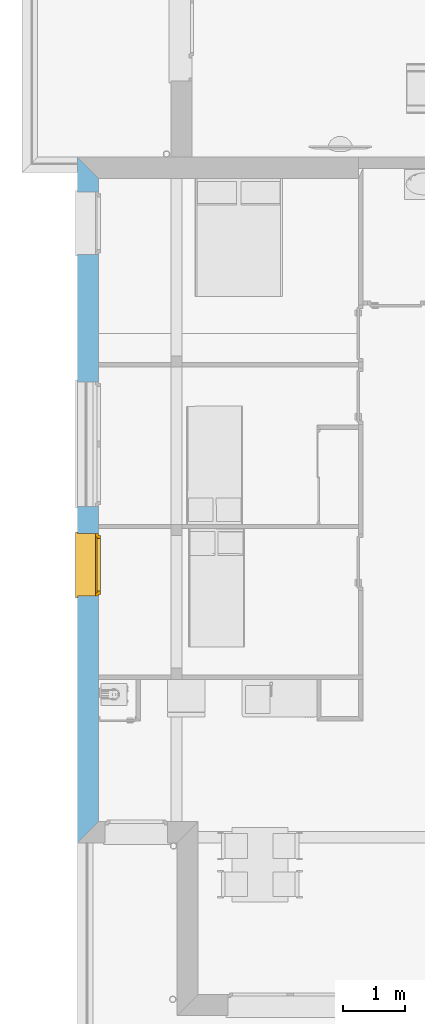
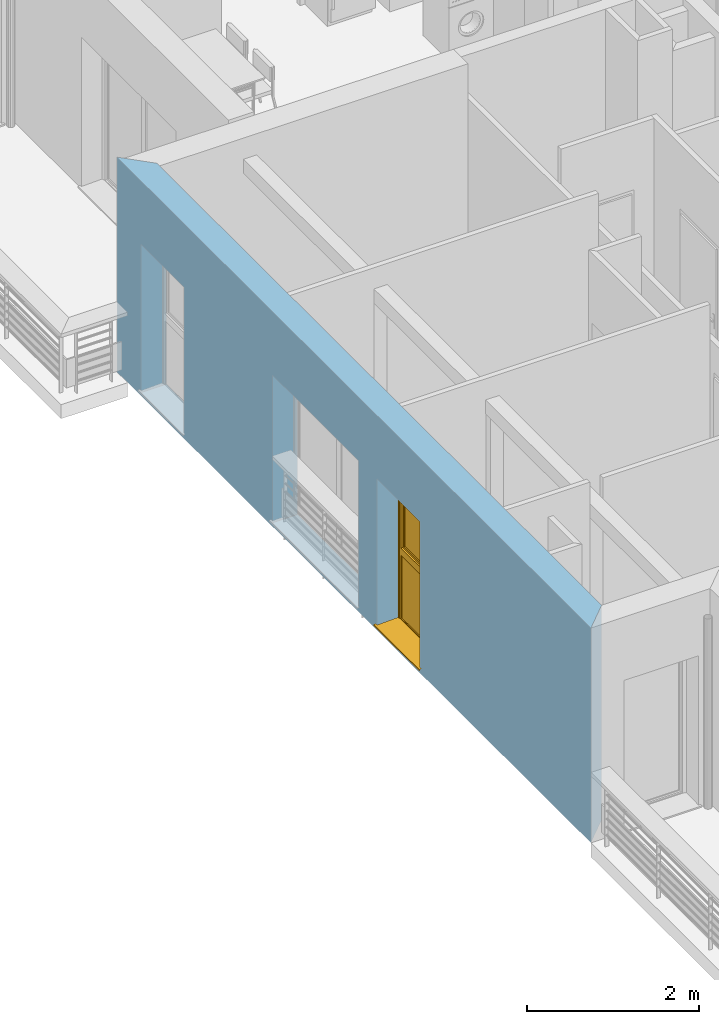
# One storey, part 10 of 165: 1 window, 3 openings, plus 1 element that does not belong to this part.
"""IFC2X3 building model written with IfcOpenShell, lengths in millimetres."""

from ifc_helpers import new_model, entity, si_unit, converted_unit, derived_unit, money_unit, direction, frame, origin_with_axes, place, context, subcontext, project, spatial, polyline, outline, extrude, open_shell, faceted_brep, surface_model, source, transform, mapped, material, layer, layer_set, layer_usage, type_object, element, fill, save


model = new_model("IFC2X3")

# Units and contexts
model_context = context("Model", 3, precision=0.01, world=origin_with_axes(), true_north=direction((0.0, 1.0)))
body_context = subcontext(model_context, "Body", "Model", "MODEL_VIEW")
ifc_project = project(units=[si_unit("LENGTHUNIT", "METRE", prefix="MILLI"), si_unit("AREAUNIT", "SQUARE_METRE"), si_unit("VOLUMEUNIT", "CUBIC_METRE"), converted_unit("PLANEANGLEUNIT", "DEGREE", entity("IfcPlaneAngleMeasure", 0.0174532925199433), si_unit("PLANEANGLEUNIT", "RADIAN"), dimensions=[0, 0, 0, 0, 0, 0, 0]), money_unit("USD"), converted_unit("TIMEUNIT", "Year", entity("IfcTimeMeasure", 31557600.0), si_unit("TIMEUNIT", "SECOND"), dimensions=[0, 0, 1, 0, 0, 0, 0]), si_unit("MASSUNIT", "GRAM", prefix="KILO"), si_unit("THERMODYNAMICTEMPERATUREUNIT", "DEGREE_CELSIUS"), si_unit("LUMINOUSINTENSITYUNIT", "LUMEN"), si_unit("ENERGYUNIT", "JOULE", prefix="MEGA"), derived_unit("THERMALCONDUCTANCEUNIT", [(si_unit("POWERUNIT", "WATT"), 1), (si_unit("LENGTHUNIT", "METRE"), -1), (si_unit("THERMODYNAMICTEMPERATUREUNIT", "KELVIN"), -1)]), derived_unit("SPECIFICHEATCAPACITYUNIT", [(si_unit("ENERGYUNIT", "JOULE"), 1), (si_unit("MASSUNIT", "GRAM", prefix="KILO"), -1), (si_unit("THERMODYNAMICTEMPERATUREUNIT", "KELVIN"), -1)]), derived_unit("MASSDENSITYUNIT", [(si_unit("MASSUNIT", "GRAM", prefix="KILO"), 1), (si_unit("VOLUMEUNIT", "CUBIC_METRE"), -1)])], contexts=[model_context])

# Site, building, storey
site_placement = place(None, origin_with_axes())
site = spatial("IfcSite", under=ifc_project, at=site_placement, Name="Site", CompositionType="ELEMENT")
building_placement = place(site_placement, origin_with_axes())
building = spatial("IfcBuilding", under=site, at=building_placement, Name="Bâtiment", CompositionType="ELEMENT")
storey_placement = place(building_placement, frame((0.0, 0.0, 8500.0), z_axis=(0.0, 0.0, 1.0), x_axis=(1.0, 0.0, 0.0)))
storey = spatial("IfcBuildingStorey", under=building, at=storey_placement, Name="Etage 2", CompositionType="ELEMENT", Elevation=8500.0)

# Wall, openings, window
ifc_material_1 = material(Name="Parpaing 312445824")
ifc_layer_1 = layer(ifc_material_1, 180.0, ventilated="UNKNOWN")
ifc_material_2 = material(Name="Isolant styromousse 301821074")
ifc_layer_2 = layer(ifc_material_2, 160.0, ventilated="UNKNOWN")
ifc_layer_set = layer_set([ifc_layer_1, ifc_layer_2], Name="isol int 18+16 0018356637")
ifc_layer_usage = layer_usage(ifc_layer_set, "AXIS2", "POSITIVE", 0.0)
wall_type = type_object("IfcWallType", Name="isol int 18+16 0018356637 340", PredefinedType="NOTDEFINED")
wall_placement = place(storey_placement, frame((2216634.23334483, -644016.3765232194, 0.0), z_axis=(0.0, 0.0, 1.0), x_axis=(-5.736987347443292e-10, -1.0, 0.0)))
wall = element("IfcWallStandardCase", 1, at=wall_placement, inside=storey, type_object=wall_type, material=ifc_layer_usage, Name="Mur-143", context=body_context, shape_type="SweptSolid", body=[
    extrude(outline(polyline([(0.0, 0.0), (11025.09125507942, 0.0), (10685.09125488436, 340.0000000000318), (339.9999955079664, 340.0000000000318), (0.0, 0.0)])), origin_with_axes(), (0.0, 0.0, 1.0), 3050.0),
])
opening_1_placement = place(wall_placement, frame((4613.39090611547, 0.0, 50.00000000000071), z_axis=(0.0, 0.0, 1.0), x_axis=(1.0, 0.0, 0.0)))
element("IfcOpeningElement", 2, at=opening_1_placement, cuts=wall, Name="Fen-207", context=body_context, shape_type="Brep", body=[
    faceted_brep([(-1000.000000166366, 290.0000020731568, 2100.0), (-1000.000000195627, 341.0000020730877, 2100.0), (-1000.000000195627, 341.0000020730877, 0.0), (-1000.000000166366, 290.0000020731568, 0.0), (-1000.000000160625, 280.0000020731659, 2100.0), (-1000.000000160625, 280.0000020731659, 2350.0), (-1000.000000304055, 530.0000020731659, 2350.0), (-1000.000000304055, 530.0000020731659, 2100.0), (999.9999998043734, 341.0000032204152, 2100.0), (999.9999998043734, 341.0000032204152, 0.0), (999.9999998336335, 290.0000032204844, 0.0), (1000.000000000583, -1.000003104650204, 0.0), (-999.9999999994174, -1.000004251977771, 0.0), (-999.9999999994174, -1.000004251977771, 2100.0), (999.9999998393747, 280.0000032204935, 2100.0), (999.9999998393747, 280.0000032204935, 2350.0), (999.9999996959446, 530.0000032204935, 2350.0), (999.9999996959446, 530.0000032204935, 2100.0), (999.9999998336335, 290.0000032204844, 2100.0), (1000.000000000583, -1.000003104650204, 2100.0)], [[[0, 1, 2, 3]], [[1, 0, 4, 5, 6, 7]], [[1, 8, 9, 2]], [[10, 11, 12, 3, 2, 9]], [[4, 0, 3, 12, 13]], [[4, 14, 15, 5]], [[6, 5, 15, 16]], [[7, 6, 16, 17]], [[8, 1, 7, 17]], [[8, 18, 10, 9]], [[18, 14, 19, 11, 10]], [[13, 12, 11, 19]], [[14, 4, 13, 19]], [[18, 8, 17, 16, 15, 14]]]),
])
opening_2_placement = place(wall_placement, frame((6554.331148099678, 0.0, 50.00000000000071), z_axis=(0.0, 0.0, 1.0), x_axis=(1.0, 0.0, 0.0)))
opening_2 = element("IfcOpeningElement", 3, at=opening_2_placement, cuts=wall, Name="Fen-133", context=body_context, shape_type="Brep", body=[
    faceted_brep([(-500.0000001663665, 290.0000034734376, 2100.0), (-500.0000001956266, 341.0000034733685, 2100.0), (-500.0000001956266, 341.0000034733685, 0.0), (-500.0000001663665, 290.0000034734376, 0.0), (-500.0000001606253, 280.0000034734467, 2100.0), (-500.0000001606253, 280.0000034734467, 2350.0), (-500.0000003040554, 530.0000034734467, 2350.0), (-500.0000003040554, 530.0000034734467, 2100.0), (499.9999998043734, 341.0000040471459, 2100.0), (499.9999998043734, 341.0000040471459, 0.0), (499.9999998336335, 290.000004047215, 0.0), (500.0000000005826, -1.000002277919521, 0.0), (-499.9999999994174, -1.000002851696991, 0.0), (-499.9999999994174, -1.000002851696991, 2100.0), (499.9999998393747, 280.0000040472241, 2100.0), (499.9999998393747, 280.0000040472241, 2350.0), (499.9999996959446, 530.0000040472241, 2350.0), (499.9999996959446, 530.0000040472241, 2100.0), (499.9999998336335, 290.000004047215, 2100.0), (500.0000000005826, -1.000002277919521, 2100.0)], [[[0, 1, 2, 3]], [[1, 0, 4, 5, 6, 7]], [[1, 8, 9, 2]], [[10, 11, 12, 3, 2, 9]], [[4, 0, 3, 12, 13]], [[4, 14, 15, 5]], [[6, 5, 15, 16]], [[7, 6, 16, 17]], [[8, 1, 7, 17]], [[8, 18, 10, 9]], [[18, 14, 19, 11, 10]], [[13, 12, 11, 19]], [[14, 4, 13, 19]], [[18, 8, 17, 16, 15, 14]]]),
])
opening_3_placement = place(wall_placement, frame((1062.585342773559, 0.0, 50.00000000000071), z_axis=(0.0, 0.0, 1.0), x_axis=(1.0, 0.0, 0.0)))
element("IfcOpeningElement", 4, at=opening_3_placement, cuts=wall, Name="Fen-133", context=body_context, shape_type="Brep", body=[
    faceted_brep([(-500.0000001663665, 290.0000003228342, 2100.0), (-500.0000001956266, 341.0000003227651, 2100.0), (-500.0000001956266, 341.0000003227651, 0.0), (-500.0000001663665, 290.0000003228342, 0.0), (-500.0000001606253, 280.0000003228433, 2100.0), (-500.0000001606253, 280.0000003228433, 2350.0), (-500.0000003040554, 530.0000003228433, 2350.0), (-500.0000003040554, 530.0000003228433, 2100.0), (499.9999998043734, 341.0000008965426, 2100.0), (499.9999998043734, 341.0000008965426, 0.0), (499.9999998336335, 290.0000008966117, 0.0), (500.0000000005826, -1.000005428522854, 0.0), (-499.9999999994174, -1.000006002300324, 0.0), (-499.9999999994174, -1.000006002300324, 2100.0), (499.9999998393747, 280.0000008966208, 2100.0), (499.9999998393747, 280.0000008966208, 2350.0), (499.9999996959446, 530.0000008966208, 2350.0), (499.9999996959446, 530.0000008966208, 2100.0), (499.9999998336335, 290.0000008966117, 2100.0), (500.0000000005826, -1.000005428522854, 2100.0)], [[[0, 1, 2, 3]], [[1, 0, 4, 5, 6, 7]], [[1, 8, 9, 2]], [[10, 11, 12, 3, 2, 9]], [[4, 0, 3, 12, 13]], [[4, 14, 15, 5]], [[15, 16, 6, 5]], [[16, 17, 7, 6]], [[8, 1, 7, 17]], [[8, 18, 10, 9]], [[18, 14, 19, 11, 10]], [[13, 12, 11, 19]], [[14, 4, 13, 19]], [[18, 8, 17, 16, 15, 14]]]),
])
window_style = type_object("IfcWindowStyle", Name="Fenêtre 27", ConstructionType="NOTDEFINED", OperationType="DOUBLE_PANEL_HORIZONTAL", ParameterTakesPrecedence=False, Sizeable=False)
shared_shape = source(origin_with_axes(), body_context, "Body", "SurfaceModel", [
    surface_model("IfcShellBasedSurfaceModel", [(-500.0, -51.00000000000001, 40.00000000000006), (500.0, -51.00000000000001, 40.0), (500.0, -51.00000000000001, 50.0), (-500.0, -51.00000000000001, 50.00000000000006), (-530.0, -369.9999999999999, 28.96551724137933), (530.0, -369.9999999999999, 28.96551724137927), (530.0, -339.9999999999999, 30.00324289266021), (500.0, -339.9999999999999, 30.00324289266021), (-500.0, -339.9999999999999, 30.00324289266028), (-530.0, -339.9999999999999, 30.00324289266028), (-530.0, -369.9999999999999, 8.96551724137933), (530.0, -369.9999999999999, 8.965517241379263), (-530.0, -359.9999999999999, 18.96551724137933), (530.0, -359.9999999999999, 18.96551724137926)], [open_shell([[[0, 1, 2, 3]], [[4, 5, 6, 7, 1, 0, 8, 9]], [[10, 11, 5, 4]], [[12, 13, 11, 10]]])]),
    faceted_brep([(500.0, -59.99999999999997, 2350.0), (500.0, 190.0, 2350.0), (497.0, 190.0, 2350.0), (497.0, -59.99999999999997, 2350.0), (500.0, -59.99999999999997, 2100.0), (500.0, 190.0, 2100.0), (497.0, 190.0, 2100.0), (497.0, -59.99999999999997, 2100.0)], [[[0, 1, 2, 3]], [[0, 4, 5, 1]], [[1, 5, 6, 2]], [[3, 2, 6, 7]], [[4, 0, 3, 7]], [[5, 4, 7, 6]]]),
    faceted_brep([(-497.0, -59.99999999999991, 2350.0), (-497.0, 190.0000000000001, 2350.0), (-500.0, 190.0000000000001, 2350.0), (-500.0, -59.99999999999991, 2350.0), (-497.0, -59.99999999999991, 2100.0), (-497.0, 190.0000000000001, 2100.0), (-500.0, 190.0000000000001, 2100.0), (-500.0, -59.99999999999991, 2100.0)], [[[0, 1, 2, 3]], [[0, 4, 5, 1]], [[1, 5, 6, 2]], [[3, 2, 6, 7]], [[4, 0, 3, 7]], [[5, 4, 7, 6]]]),
    faceted_brep([(497.0, -60.0, 2100.0), (497.0, -60.0, 2350.0), (-497.0, -59.99999999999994, 2350.0), (-497.0, -59.99999999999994, 2100.0), (497.0, -56.99999999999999, 2100.0), (497.0, -56.99999999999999, 2347.0), (497.0, 187.0, 2347.0), (497.0, 187.0, 2103.0), (497.0, -37.99999999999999, 2103.0), (497.0, -37.99999999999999, 2100.0), (497.0, 190.0, 2100.0), (497.0, 190.0, 2350.0), (-497.0, 190.0000000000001, 2350.0), (-497.0, 190.0000000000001, 2100.0), (-497.0, -37.99999999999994, 2100.0), (-497.0, -37.99999999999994, 2103.0), (-497.0, 187.0000000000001, 2103.0), (-497.0, 187.0000000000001, 2347.0), (-497.0, -56.99999999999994, 2347.0), (-497.0, -56.99999999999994, 2100.0)], [[[0, 1, 2, 3]], [[0, 4, 5, 6, 7, 8, 9, 10, 11, 1]], [[1, 11, 12, 2]], [[3, 2, 12, 13, 14, 15, 16, 17, 18, 19]], [[4, 0, 3, 19]], [[5, 4, 19, 18]], [[6, 5, 18, 17]], [[7, 6, 17, 16]], [[8, 7, 16, 15]], [[9, 8, 15, 14]], [[10, 9, 14, 13]], [[11, 10, 13, 12]]]),
    faceted_brep([(494.0, -40.37442957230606, 2206.419644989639), (494.0, -35.54711042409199, 2188.403844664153), (494.0, -27.66471820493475, 2171.5), (494.0, -16.9667554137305, 2156.22172576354), (494.0, -3.778274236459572, 2143.03324458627), (494.0, 11.50000000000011, 2132.335281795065), (494.0, 28.40384466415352, 2124.452889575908), (494.0, 46.4196449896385, 2119.625570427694), (494.0, 65.00000000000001, 2118.0), (494.0, 83.58035501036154, 2119.625570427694), (494.0, 101.5961553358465, 2124.452889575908), (494.0, 118.4999999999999, 2132.335281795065), (494.0, 133.7782742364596, 2143.03324458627), (494.0, 146.9667554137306, 2156.22172576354), (494.0, 157.6647182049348, 2171.5), (494.0, 165.5471104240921, 2188.403844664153), (494.0, 170.3744295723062, 2206.419644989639), (494.0, 171.9999999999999, 2225.0), (494.0, 170.3744295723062, 2243.580355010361), (494.0, 165.5471104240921, 2261.596155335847), (494.0, 157.6647182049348, 2278.5), (494.0, 146.9667554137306, 2293.77827423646), (494.0, 133.7782742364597, 2306.966755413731), (494.0, 118.5, 2317.664718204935), (494.0, 101.5961553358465, 2325.547110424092), (494.0, 83.58035501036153, 2330.374429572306), (494.0, 64.99999999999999, 2332.0), (494.0, 46.41964498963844, 2330.374429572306), (494.0, 28.40384466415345, 2325.547110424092), (494.0, 11.5, 2317.664718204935), (494.0, -3.778274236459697, 2306.966755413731), (494.0, -16.96675541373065, 2293.77827423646), (494.0, -27.66471820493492, 2278.5), (494.0, -35.54711042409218, 2261.596155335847), (494.0, -40.37442957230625, 2243.580355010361), (494.0, -41.99999999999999, 2225.0), (-494.0, -40.374429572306, 2206.419644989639), (-494.0, -35.54711042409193, 2188.403844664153), (-494.0, -27.6647182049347, 2171.5), (-494.0, -16.96675541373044, 2156.22172576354), (-494.0, -3.778274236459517, 2143.03324458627), (-494.0, 11.50000000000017, 2132.335281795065), (-494.0, 28.40384466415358, 2124.452889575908), (-494.0, 46.41964498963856, 2119.625570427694), (-494.0, 65.00000000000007, 2118.0), (-494.0, 83.5803550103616, 2119.625570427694), (-494.0, 101.5961553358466, 2124.452889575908), (-494.0, 118.5, 2132.335281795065), (-494.0, 133.7782742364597, 2143.03324458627), (-494.0, 146.9667554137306, 2156.22172576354), (-494.0, 157.6647182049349, 2171.5), (-494.0, 165.5471104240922, 2188.403844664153), (-494.0, 170.3744295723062, 2206.419644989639), (-494.0, 172.0, 2225.0), (-494.0, 170.3744295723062, 2243.580355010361), (-494.0, 165.5471104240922, 2261.596155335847), (-494.0, 157.6647182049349, 2278.5), (-494.0, 146.9667554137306, 2293.77827423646), (-494.0, 133.7782742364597, 2306.966755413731), (-494.0, 118.5, 2317.664718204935), (-494.0, 101.5961553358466, 2325.547110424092), (-494.0, 83.58035501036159, 2330.374429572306), (-494.0, 65.00000000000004, 2332.0), (-494.0, 46.41964498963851, 2330.374429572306), (-494.0, 28.40384466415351, 2325.547110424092), (-494.0, 11.50000000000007, 2317.664718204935), (-494.0, -3.778274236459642, 2306.966755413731), (-494.0, -16.96675541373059, 2293.77827423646), (-494.0, -27.66471820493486, 2278.5), (-494.0, -35.54711042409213, 2261.596155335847), (-494.0, -40.37442957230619, 2243.580355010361), (-494.0, -41.99999999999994, 2225.0)], [[[0, 1, 2, 3, 4, 5, 6, 7, 8, 9, 10, 11, 12, 13, 14, 15, 16, 17, 18, 19, 20, 21, 22, 23, 24, 25, 26, 27, 28, 29, 30, 31, 32, 33, 34, 35]], [[1, 0, 36, 37]], [[2, 1, 37, 38]], [[3, 2, 38, 39]], [[4, 3, 39, 40]], [[5, 4, 40, 41]], [[6, 5, 41, 42]], [[7, 6, 42, 43]], [[8, 7, 43, 44]], [[9, 8, 44, 45]], [[10, 9, 45, 46]], [[11, 10, 46, 47]], [[12, 11, 47, 48]], [[13, 12, 48, 49]], [[14, 13, 49, 50]], [[15, 14, 50, 51]], [[16, 15, 51, 52]], [[17, 16, 52, 53]], [[18, 17, 53, 54]], [[19, 18, 54, 55]], [[20, 19, 55, 56]], [[21, 20, 56, 57]], [[22, 21, 57, 58]], [[23, 22, 58, 59]], [[24, 23, 59, 60]], [[25, 24, 60, 61]], [[26, 25, 61, 62]], [[27, 26, 62, 63]], [[28, 27, 63, 64]], [[29, 28, 64, 65]], [[30, 29, 65, 66]], [[31, 30, 66, 67]], [[32, 31, 67, 68]], [[33, 32, 68, 69]], [[34, 33, 69, 70]], [[35, 34, 70, 71]], [[0, 35, 71, 36]], [[36, 71, 70, 69, 68, 67, 66, 65, 64, 63, 62, 61, 60, 59, 58, 57, 56, 55, 54, 53, 52, 51, 50, 49, 48, 47, 46, 45, 44, 43, 42, 41, 40, 39, 38, 37]]]),
    faceted_brep([(-500.0, -34.99999999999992, 30.0), (-500.0, -59.99999999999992, 30.0), (-500.0, -59.99999999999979, 2100.0), (-500.0, -34.99999999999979, 2100.0), (-475.0, -34.99999999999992, 30.0), (-475.0, -37.99999999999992, 30.0), (-497.0, -37.99999999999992, 30.0), (-497.0, -56.99999999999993, 30.0), (-475.0, -56.99999999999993, 30.0), (-475.0, -59.99999999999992, 30.0), (-475.0, -59.99999999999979, 2100.0), (-475.0, -56.99999999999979, 2100.0), (-497.0, -56.99999999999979, 2100.0), (-497.0, -37.99999999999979, 2100.0), (-475.0, -37.99999999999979, 2100.0), (-475.0, -34.99999999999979, 2100.0)], [[[0, 1, 2, 3]], [[0, 4, 5, 6, 7, 8, 9, 1]], [[1, 9, 10, 2]], [[3, 2, 10, 11, 12, 13, 14, 15]], [[4, 0, 3, 15]], [[5, 4, 15, 14]], [[6, 5, 14, 13]], [[7, 6, 13, 12]], [[8, 7, 12, 11]], [[9, 8, 11, 10]]]),
    faceted_brep([(500.0, -34.99999999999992, 30.0), (500.0, -34.99999999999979, 2100.0), (500.0, -59.99999999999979, 2100.0), (500.0, -59.99999999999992, 30.0), (475.0, -34.99999999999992, 30.0), (475.0, -34.99999999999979, 2100.0), (475.0, -37.99999999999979, 2100.0), (497.0, -37.99999999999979, 2100.0), (497.0, -56.99999999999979, 2100.0), (475.0, -56.99999999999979, 2100.0), (475.0, -59.99999999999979, 2100.0), (475.0, -59.99999999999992, 30.0), (475.0, -56.99999999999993, 30.0), (497.0, -56.99999999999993, 30.0), (497.0, -37.99999999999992, 30.0), (475.0, -37.99999999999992, 30.0)], [[[0, 1, 2, 3]], [[4, 5, 1, 0]], [[1, 5, 6, 7, 8, 9, 10, 2]], [[3, 2, 10, 11]], [[0, 3, 11, 12, 13, 14, 15, 4]], [[15, 6, 5, 4]], [[14, 7, 6, 15]], [[13, 8, 7, 14]], [[12, 9, 8, 13]], [[11, 10, 9, 12]]]),
    faceted_brep([(-497.0, -46.66666666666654, 2225.0), (497.0, -46.6666666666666, 2225.0), (497.0, -46.6666666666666, 2216.666666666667), (-497.0, -46.66666666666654, 2216.666666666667), (-497.0, -51.66666666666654, 2225.0), (497.0, -51.6666666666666, 2225.0), (497.0, -51.6666666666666, 2216.666666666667), (497.0, -49.99999999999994, 2200.0), (497.0, -44.99999999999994, 2200.0), (-497.0, -44.99999999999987, 2200.0), (-497.0, -49.99999999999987, 2200.0), (-497.0, -51.66666666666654, 2216.666666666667)], [[[0, 1, 2, 3]], [[1, 0, 4, 5]], [[1, 5, 6, 7, 8, 2]], [[2, 8, 9, 3]], [[4, 0, 3, 9, 10, 11]], [[6, 5, 4, 11]], [[7, 6, 11, 10]], [[8, 7, 10, 9]]]),
    faceted_brep([(497.0, -44.99999999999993, 2200.0), (497.0, -46.6666666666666, 2183.333333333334), (-497.0, -46.66666666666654, 2183.333333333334), (-497.0, -44.99999999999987, 2200.0), (497.0, -49.99999999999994, 2200.0), (497.0, -51.6666666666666, 2183.333333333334), (497.0, -51.6666666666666, 2166.666666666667), (497.0, -49.99999999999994, 2150.000000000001), (497.0, -44.99999999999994, 2150.000000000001), (497.0, -46.6666666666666, 2166.666666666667), (-497.0, -46.66666666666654, 2166.666666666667), (-497.0, -44.99999999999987, 2150.000000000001), (-497.0, -49.99999999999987, 2150.000000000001), (-497.0, -51.66666666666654, 2166.666666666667), (-497.0, -51.66666666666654, 2183.333333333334), (-497.0, -49.99999999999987, 2200.0)], [[[0, 1, 2, 3]], [[0, 4, 5, 6, 7, 8, 9, 1]], [[1, 9, 10, 2]], [[3, 2, 10, 11, 12, 13, 14, 15]], [[4, 0, 3, 15]], [[5, 4, 15, 14]], [[6, 5, 14, 13]], [[7, 6, 13, 12]], [[8, 7, 12, 11]], [[9, 8, 11, 10]]]),
    faceted_brep([(497.0, -44.99999999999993, 2150.000000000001), (497.0, -46.6666666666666, 2133.333333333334), (-497.0, -46.66666666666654, 2133.333333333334), (-497.0, -44.99999999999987, 2150.000000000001), (497.0, -49.99999999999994, 2150.000000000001), (497.0, -51.6666666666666, 2133.333333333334), (497.0, -51.6666666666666, 2116.666666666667), (497.0, -49.99999999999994, 2100.000000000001), (497.0, -44.99999999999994, 2100.000000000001), (497.0, -46.6666666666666, 2116.666666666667), (-497.0, -46.66666666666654, 2116.666666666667), (-497.0, -44.99999999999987, 2100.000000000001), (-497.0, -49.99999999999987, 2100.000000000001), (-497.0, -51.66666666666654, 2116.666666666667), (-497.0, -51.66666666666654, 2133.333333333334), (-497.0, -49.99999999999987, 2150.000000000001)], [[[0, 1, 2, 3]], [[0, 4, 5, 6, 7, 8, 9, 1]], [[1, 9, 10, 2]], [[3, 2, 10, 11, 12, 13, 14, 15]], [[4, 0, 3, 15]], [[5, 4, 15, 14]], [[6, 5, 14, 13]], [[7, 6, 13, 12]], [[8, 7, 12, 11]], [[9, 8, 11, 10]]]),
    faceted_brep([(475.0000000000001, 0.0, 2050.0), (475.0000000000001, -25.00000000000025, 2050.0), (450.0, -25.00000000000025, 2050.0), (450.0, -50.00000000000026, 2050.0), (500.0, -50.00000000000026, 2050.0), (500.0, 0.0, 2050.0), (475.0000000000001, 0.0, 1025.0), (475.0000000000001, -25.00000000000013, 1025.0), (450.0, -25.00000000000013, 1050.0), (450.0, -25.00000000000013, 1025.0), (450.0, -50.00000000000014, 1050.0), (450.0, -50.00000000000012, 950.0), (450.0, -50.00000000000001, 50.00000000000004), (500.0, -50.00000000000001, 50.00000000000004), (500.0, 0.0, 50.00000000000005), (450.0, 0.0, 50.00000000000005), (450.0, 0.0, 950.0), (450.0, 0.0, 1025.0)], [[[0, 1, 2, 3, 4, 5]], [[1, 0, 6, 7]], [[8, 2, 1, 7, 9]], [[2, 8, 10, 3]], [[10, 11, 12, 13, 4, 3]], [[5, 4, 13, 14]], [[6, 0, 5, 14, 15, 16, 17]], [[6, 17, 9, 7]], [[9, 17, 16, 11, 10, 8]], [[15, 12, 11, 16]], [[14, 13, 12, 15]]]),
    faceted_brep([(-450.0, -25.00000000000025, 2050.0), (-475.0000000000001, -25.00000000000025, 2050.0), (-475.0000000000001, 0.0, 2050.0), (-500.0, 0.0, 2050.0), (-500.0, -50.00000000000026, 2050.0), (-450.0, -50.00000000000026, 2050.0), (-450.0, -25.00000000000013, 1050.0), (-450.0, -25.00000000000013, 1025.0), (-475.0000000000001, -25.00000000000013, 1025.0), (-475.0000000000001, 0.0, 1025.0), (-450.0, 0.0, 1025.0), (-450.0, 0.0, 950.0), (-450.0, 0.0, 50.00000000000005), (-500.0, 0.0, 50.00000000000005), (-500.0, -50.00000000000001, 50.00000000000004), (-450.0, -50.00000000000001, 50.00000000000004), (-450.0, -50.00000000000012, 950.0), (-450.0, -50.00000000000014, 1050.0)], [[[0, 1, 2, 3, 4, 5]], [[1, 0, 6, 7, 8]], [[9, 2, 1, 8]], [[9, 10, 11, 12, 13, 3, 2]], [[13, 14, 4, 3]], [[14, 15, 16, 17, 5, 4]], [[6, 0, 5, 17]], [[7, 6, 17, 16, 11, 10]], [[10, 9, 8, 7]], [[11, 16, 15, 12]], [[12, 15, 14, 13]]]),
    faceted_brep([(450.0, -25.00000000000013, 1050.0), (-450.0, -25.00000000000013, 1050.0), (-450.0, -50.00000000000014, 1050.0), (450.0, -50.00000000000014, 1050.0), (-450.0, -25.00000000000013, 1025.0), (450.0, -25.00000000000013, 1025.0), (-450.0, 0.0, 1025.0), (-450.0, 0.0, 950.0), (-450.0, -50.00000000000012, 950.0), (450.0, -50.00000000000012, 950.0), (450.0, 0.0, 950.0), (450.0, 0.0, 1025.0)], [[[0, 1, 2, 3]], [[4, 1, 0, 5]], [[4, 6, 7, 8, 2, 1]], [[8, 9, 3, 2]], [[5, 0, 3, 9, 10, 11]], [[11, 6, 4, 5]], [[6, 11, 10, 7]], [[10, 9, 8, 7]]]),
    faceted_brep([(475.0000000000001, 0.0, 2050.0), (475.0000000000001, 0.0, 2075.0), (-475.0000000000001, 0.0, 2075.0), (-475.0000000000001, 0.0, 2050.0), (-500.0, 0.0, 2050.0), (-500.0, 0.0, 2100.0), (500.0, 0.0, 2100.0), (500.0, 0.0, 2050.0), (475.0000000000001, -25.00000000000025, 2050.0), (475.0000000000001, -25.00000000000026, 2075.0), (-475.0000000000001, -25.00000000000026, 2075.0), (-475.0000000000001, -25.00000000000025, 2050.0), (-450.0, -25.00000000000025, 2050.0), (-450.0, -50.00000000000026, 2050.0), (-500.0, -50.00000000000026, 2050.0), (-500.0, -50.00000000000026, 2100.0), (500.0, -50.00000000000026, 2100.0), (500.0, -50.00000000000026, 2050.0), (450.0, -50.00000000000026, 2050.0), (450.0, -25.00000000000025, 2050.0)], [[[0, 1, 2, 3, 4, 5, 6, 7]], [[1, 0, 8, 9]], [[2, 1, 9, 10]], [[3, 2, 10, 11]], [[11, 12, 13, 14, 4, 3]], [[4, 14, 15, 5]], [[5, 15, 16, 6]], [[6, 16, 17, 7]], [[8, 0, 7, 17, 18, 19]], [[12, 11, 10, 9, 8, 19]], [[12, 19, 18, 13]], [[14, 13, 18, 17, 16, 15]]]),
    faceted_brep([(450.0, -50.00000000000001, 50.0), (500.0, -50.00000000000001, 50.0), (500.0, 0.0, 50.00000000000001), (450.0, 0.0, 50.00000000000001), (-450.0, -50.00000000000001, 50.0), (-500.0, -50.00000000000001, 50.0), (-500.0, -50.0, 0.0), (500.0, -50.0, 0.0), (500.0, 0.0, 0.0), (-500.0, 0.0, 0.0), (-500.0, 0.0, 50.00000000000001), (-450.0, 0.0, 50.00000000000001)], [[[0, 1, 2, 3]], [[0, 4, 5, 6, 7, 1]], [[1, 7, 8, 2]], [[3, 2, 8, 9, 10, 11]], [[4, 0, 3, 11]], [[5, 4, 11, 10]], [[6, 5, 10, 9]], [[7, 6, 9, 8]]]),
    faceted_brep([(425.0000000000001, -25.00000000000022, 2025.0), (475.0000000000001, -25.00000000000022, 2025.0), (475.0000000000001, 24.99999999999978, 2025.0), (425.0000000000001, 24.99999999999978, 2025.0), (425.0000000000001, -25.00000000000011, 1075.0), (475.0000000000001, -25.0000000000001, 1075.0), (475.0000000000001, 24.9999999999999, 1075.0), (425.0000000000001, 24.9999999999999, 1075.0)], [[[0, 1, 2, 3]], [[0, 4, 5, 1]], [[1, 5, 6, 2]], [[3, 2, 6, 7]], [[4, 0, 3, 7]], [[5, 4, 7, 6]]]),
    faceted_brep([(-425.0000000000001, -25.00000000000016, 1075.0), (-475.0000000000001, -25.00000000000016, 1075.0), (-475.0000000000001, 24.99999999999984, 1075.0), (-425.0000000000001, 24.99999999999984, 1075.0), (-425.0000000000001, -25.00000000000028, 2025.0), (-475.0000000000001, -25.00000000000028, 2025.0), (-475.0000000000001, 24.99999999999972, 2025.0), (-425.0000000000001, 24.99999999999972, 2025.0)], [[[0, 1, 2, 3]], [[0, 4, 5, 1]], [[1, 5, 6, 2]], [[3, 2, 6, 7]], [[4, 0, 3, 7]], [[5, 4, 7, 6]]]),
    faceted_brep([(-475.0000000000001, -25.00000000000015, 1025.0), (-475.0000000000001, -25.00000000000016, 1075.0), (-475.0000000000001, 24.99999999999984, 1075.0), (-475.0000000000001, 24.99999999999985, 1025.0), (475.0000000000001, -25.0000000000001, 1025.0), (475.0000000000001, -25.0000000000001, 1075.0), (425.0000000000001, -25.00000000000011, 1075.0), (-425.0000000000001, -25.00000000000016, 1075.0), (-425.0000000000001, 24.99999999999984, 1075.0), (425.0000000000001, 24.9999999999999, 1075.0), (475.0000000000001, 24.9999999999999, 1075.0), (475.0000000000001, 24.9999999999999, 1025.0)], [[[0, 1, 2, 3]], [[0, 4, 5, 6, 7, 1]], [[1, 7, 8, 2]], [[3, 2, 8, 9, 10, 11]], [[4, 0, 3, 11]], [[5, 4, 11, 10]], [[6, 5, 10, 9]], [[7, 6, 9, 8]]]),
    faceted_brep([(475.0000000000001, -25.00000000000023, 2075.0), (475.0000000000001, -25.00000000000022, 2025.0), (475.0000000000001, 24.99999999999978, 2025.0), (475.0000000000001, 24.99999999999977, 2075.0), (-475.0000000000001, -25.00000000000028, 2075.0), (-475.0000000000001, -25.00000000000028, 2025.0), (-425.0000000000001, -25.00000000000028, 2025.0), (425.0000000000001, -25.00000000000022, 2025.0), (425.0000000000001, 24.99999999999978, 2025.0), (-425.0000000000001, 24.99999999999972, 2025.0), (-475.0000000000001, 24.99999999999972, 2025.0), (-475.0000000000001, 24.99999999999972, 2075.0)], [[[0, 1, 2, 3]], [[0, 4, 5, 6, 7, 1]], [[1, 7, 8, 2]], [[3, 2, 8, 9, 10, 11]], [[4, 0, 3, 11]], [[5, 4, 11, 10]], [[6, 5, 10, 9]], [[7, 6, 9, 8]]]),
    surface_model("IfcShellBasedSurfaceModel", [(425.0000000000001, -10.00000000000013, 1075.0), (425.0000000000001, -10.00000000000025, 2025.0), (-425.0000000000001, -10.00000000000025, 2025.0), (-425.0000000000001, -10.00000000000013, 1075.0)], [open_shell([[[0, 1, 2, 3]]])]),
    surface_model("IfcShellBasedSurfaceModel", [(425.0000000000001, 9.999999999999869, 1075.0), (-425.0000000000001, 9.999999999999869, 1075.0), (-425.0000000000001, 9.999999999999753, 2025.0), (425.0000000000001, 9.999999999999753, 2025.0)], [open_shell([[[0, 1, 2, 3]]])]),
    surface_model("IfcShellBasedSurfaceModel", [(450.0, -35.0, 49.99999999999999), (450.0, -35.00000000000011, 950.0), (-450.0, -35.00000000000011, 950.0), (-450.0, -35.0, 49.99999999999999)], [open_shell([[[0, 1, 2, 3]]])]),
    surface_model("IfcShellBasedSurfaceModel", [(450.0, -15.0, 49.99999999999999), (-450.0, -15.0, 49.99999999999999), (-450.0, -15.00000000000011, 950.0), (450.0, -15.00000000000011, 950.0)], [open_shell([[[0, 1, 2, 3]]])]),
])
window_placement = place(opening_2_placement, frame((-499.9999999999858, 1.13686837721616e-10, 0.0), z_axis=(0.0, 0.0, 1.0), x_axis=(1.0, 0.0, 0.0)))
window = element("IfcWindow", 5, at=window_placement, inside=storey, type_object=window_style, Name="Fen-133", OverallHeight=2100.0, OverallWidth=1000.0, context=body_context, shape_type="MappedRepresentation", body=[
    mapped(shared_shape, transform((499.9999998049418, 340.000003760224, 0.0))),
])
fill(opening_2, window)

save(model, "model.ifc")
